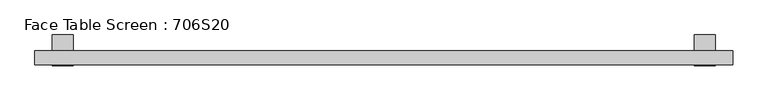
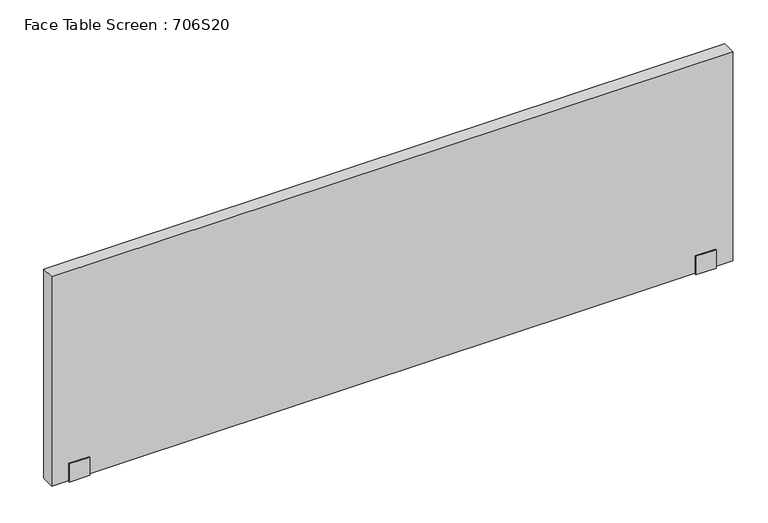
"""IFC4 building model written with IfcOpenShell, lengths in millimetres: furniture geometry, Face Table Screen : 706S20."""

from ifc_helpers import new_model, si_unit, frame, origin, place, context, project, spatial, polyline, outline, extrude, source, transform, mapped, element, save


def face_table_screen_706s20_c60f38a6(model_context):
    return source(origin(), model_context, "Body", "SweptSolid", [
        extrude(outline(polyline([(-22.9999947, -156.0), (-22.9999997, -99.0433898), (-20.0, -99.0433898), (-20.0, -153.0), (20.0, -153.0), (20.0, -22.0), (65.0, -22.0), (65.0, -25.0433898), (23.0000062, -25.0433898), (22.9999947, -156.0), (-22.9999947, -156.0)])), frame((890.0, 0.0, 0.0), z_axis=(1.0, 0.0, 0.0), x_axis=(0.0, 1.0, 0.0)), (0.0, 0.0, 1.0), 60.0),
        extrude(outline(polyline([(-22.9999947, -156.0), (-22.9999997, -99.0433898), (-20.0, -99.0433898), (-20.0, -153.0), (20.0, -153.0), (20.0, -22.0), (65.0, -22.0), (65.0, -25.0433898), (23.0000062, -25.0433898), (22.9999947, -156.0), (-22.9999947, -156.0)])), frame((-950.0, 0.0, 0.0), z_axis=(1.0, 0.0, 0.0), x_axis=(0.0, 1.0, 0.0)), (0.0, 0.0, 1.0), 60.0),
        extrude(outline(polyline([(1000.0, -20.0), (-1000.0, -20.0), (-1000.0, 20.0), (1000.0, 20.0), (1000.0, -20.0)])), frame((0.0, 0.0, -153.0), z_axis=(0.0, 0.0, 1.0), x_axis=(1.0, 0.0, 0.0)), (0.0, 0.0, 1.0), 650.0),
    ])


if __name__ == "__main__":
    model = new_model("IFC4")
    model_context = context("Model", 3, world=origin())
    ifc_project = project(units=[si_unit("LENGTHUNIT", "METRE", prefix="MILLI")], contexts=[model_context])
    site = spatial("IfcSite", under=ifc_project)
    building = spatial("IfcBuilding", under=site)
    placement = place(None, origin())
    face_table_screen_706s20_shape = face_table_screen_706s20_c60f38a6(model_context)
    element("IfcFurniture", 1, ObjectType="Face Table Screen : 706S20", at=placement, inside=building, context=model_context, shape_type="MappedRepresentation", body=[
        mapped(face_table_screen_706s20_shape, transform((0.0, 0.0, 0.0), x_axis=(1.0, 0.0, 0.0), y_axis=(0.0, 1.0, 0.0), z_axis=(0.0, 0.0, 1.0))),
    ])
    save(model, "model.ifc")
